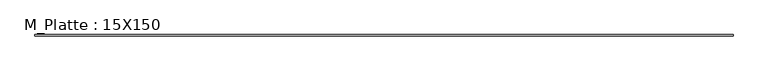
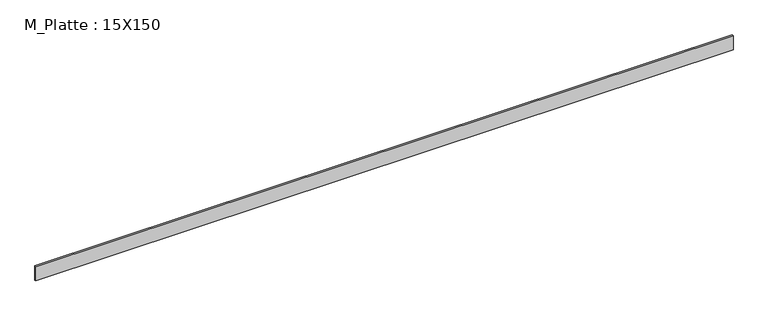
"""IFC4 building model written with IfcOpenShell, lengths in millimetres: beam geometry, M_Platte : 15X150."""

from ifc_helpers import new_model, si_unit, frame, origin, place, context, project, spatial, polyline, outline, extrude, source, transform, mapped, element, save


def m_platte_15x150_ec3b9510(model_context):
    return source(origin(), model_context, "Body", "SweptSolid", [
        extrude(outline(polyline([(3413.1110564, 7.5), (3413.1110564, -7.5), (-3541.4542431, -7.5), (-3541.4542431, 7.5), (3413.1110564, 7.5)])), frame((0.0, 0.0, -75.0), z_axis=(0.0, 0.0, 1.0), x_axis=(1.0, 0.0, 0.0)), (0.0, 0.0, 1.0), 150.0),
    ])


if __name__ == "__main__":
    model = new_model("IFC4")
    model_context = context("Model", 3, world=origin())
    ifc_project = project(units=[si_unit("LENGTHUNIT", "METRE", prefix="MILLI")], contexts=[model_context])
    site = spatial("IfcSite", under=ifc_project)
    building = spatial("IfcBuilding", under=site)
    placement = place(None, origin())
    m_platte_15x150_shape = m_platte_15x150_ec3b9510(model_context)
    element("IfcBeam", 1, ObjectType="M_Platte : 15X150", at=placement, inside=building, context=model_context, shape_type="MappedRepresentation", body=[
        mapped(m_platte_15x150_shape, transform((0.0, 0.0, 0.0), x_axis=(1.0, 0.0, 0.0), y_axis=(0.0, 1.0, 0.0), z_axis=(0.0, 0.0, 1.0))),
    ])
    save(model, "model.ifc")
